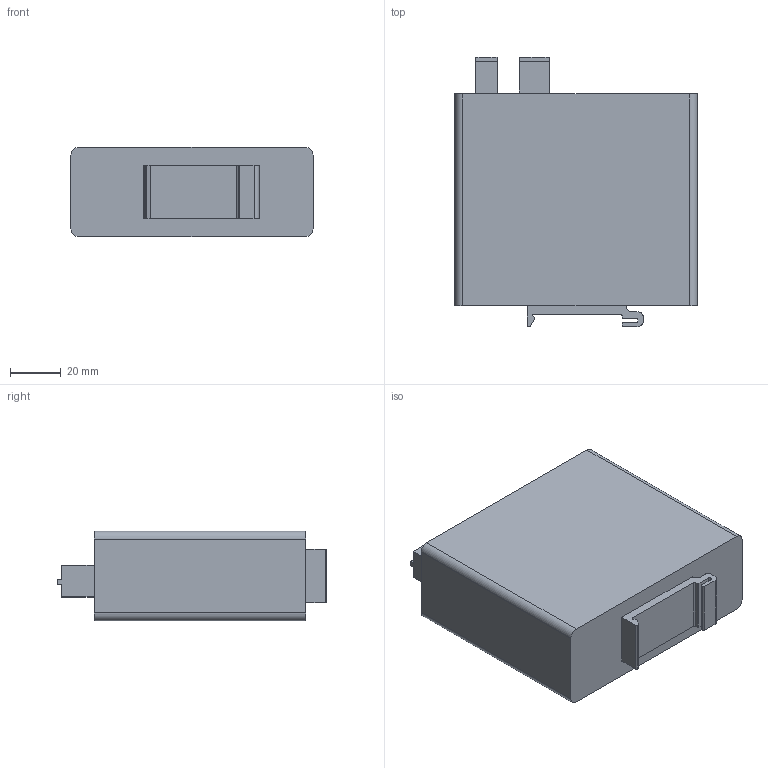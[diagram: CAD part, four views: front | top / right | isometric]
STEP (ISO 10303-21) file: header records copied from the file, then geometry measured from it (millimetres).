
FILE_DESCRIPTION((''),'2;1');
FILE_NAME('ASM0002_ASM_7_ASM_ASM','2026-05-28T',('Administrator'),(''),'PRO/ENGINEER BY PARAMETRIC TECHNOLOGY CORPORATION, 2015240','PRO/ENGINEER BY PARAMETRIC TECHNOLOGY CORPORATION, 2015240','');
FILE_SCHEMA(('CONFIG_CONTROL_DESIGN'));
Products named in the file (17): PRT0001_3; PRT0031; PRT0032; PRT0033; PRT0034; ASM0011_ASM; ASM0010_ASM; PRT0035; PRT0001; PRT0002; PRT0005; PRT0003; ASM0001_ASM_1_ASM_ASM; PRT0036; PRT0037; PRT0038; ASM0002_ASM_7_ASM_ASM
Assembly tree (47 placements, depth 4):
  ASM0002_ASM_7_ASM_ASM
    PRT0001_3
    ASM0010_ASM
      ASM0011_ASM
        PRT0031
        PRT0032  x8
        PRT0033  x8
        PRT0034
    PRT0035
    ASM0001_ASM_1_ASM_ASM
      PRT0001
      PRT0002  x8
      PRT0005  x8
      PRT0003
    PRT0036
    PRT0037
    PRT0038  x4
Bounding box: 95 x 105.61 x 35 mm (x, y, z)
Volume: 276528 mm3; surface area: 46387.4 mm2
Topology: 44 solids, 44 shells, 2836 faces, 8062 edges, 5358 vertices
Faces by surface type: plane 2063, cylinder 663, bspline 80, sphere 22, torus 8
Entity records: 88043 total; most frequent: CARTESIAN_POINT 19328, ORIENTED_EDGE 14696, DIRECTION 13976, EDGE_CURVE 7348, VECTOR 5444, LINE 5444, VERTEX_POINT 4882, AXIS2_PLACEMENT_3D 4266
